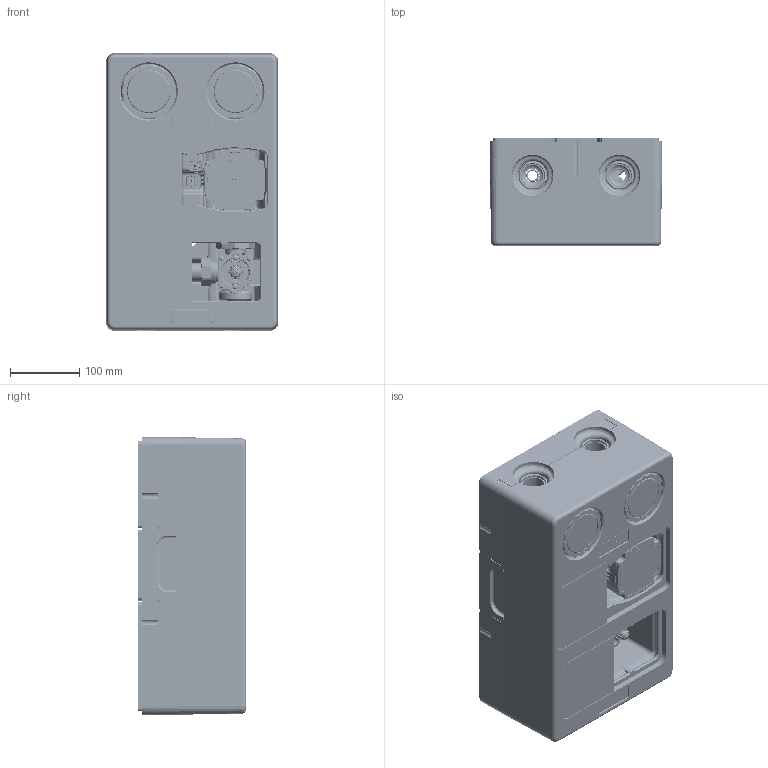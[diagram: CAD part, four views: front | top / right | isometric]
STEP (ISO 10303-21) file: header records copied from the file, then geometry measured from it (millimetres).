
FILE_DESCRIPTION (( 'STEP AP214' ), '1' );
FILE_NAME ('77839_0.STEP', '2022-02-01T09:46:56', ( '' ), ( '' ), 'SwSTEP 2.0', 'SolidWorks 2021', '' );
FILE_SCHEMA (( 'AUTOMOTIVE_DESIGN' ));
Length unit declared in the file: millimetre
Products named in the file (132): Lagerbuchse_05 01 000400; STEG_18; STEG_2; DECKGLAS_2; STEG_17; Ring-blau; Baugruppe Deckel mit Einlagen_Baugruppe; STEG_23; 801 024 2002_O-Ring _X_F824,0x2,0mm EPDM 70_X_B15 IRHD perox_2; 77813_PrimoTherm 180-2 K 25 3WM-SM; 0_0_0_5; STEG_11; 05 01 000470 (6)_Blende TH oben; Afriso Logo; 05 00 32 10_Pumpenkugelhahn VL vorm.; 05 01 000395_Lagerscheibe; OEM00143.1__3D_UPM3_HYBRID_SS.1.6; OEM00143.1__3D_UPM3_HYBRID_SS.1.4; 05 00 000274_Keilwelle Mischerbet_X_E4tigung; 0_0_0; ZYLINDER_0; 05 01 000470_Isol. PG DN25 8-teilig; 907380 0001_FKS-DIN7380_2-10.9-TX20-(A2K)-M4X12_0; 0_0_0_9; 907380 0001_FKS-DIN7380_2-10.9-TX20-(A2K)-M4X12_0_3; 0_0_0_8; 801 000 0202_O-Ring _X_F88,73x1,78mm EPDM 70_X_B15 I; 05 00 410222_Handrad f_X_FCr Thermometer; 760 000 0163_Flachdichtung _X_F830x23x2 F 391; ZEIGER; 05 00 410112_Pumpenkugelhahn G1iGxFl. m. SKB; 907380 0001_FKS-DIN7380_2-10.9-TX20-(A2K)-M4X12_0_2; OEM00143.1__3D_UPM3_HYBRID_SS.1.5; STEG_9; ZEIGER_2; STEG_12; 05 01 000393_Drehschieber DN25; STEG_26; 05 01 000608_Lagerdeckel KSV 12 bedr.; Bedruckung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
Assembly tree (131 placements, depth 9):
  77839_0
    77813_PrimoTherm 180-2 K 25 3WM-SM
      05 01 02 00 _PG DN25 gem.vorm.
        05 00 32 10_Pumpenkugelhahn VL vorm.
          05 00 410111_05 00 410111
            Einschraubk_X_F6rper_05 00 410483
          HANDRAD_05 00 410222
            HANDRAD_05 00 410222
            STEGE
            0_0_0
              0_0_0_2
                STEG
                STEG_2
                STEG_3
                0_0_0_3
                  STEG_4
                  STEG_5
              0_0_0_4
                STEG_6
                STEG_7
                STEG_8
                STEG_9
              0_0_0_5
                STEG_10
                STEG_11
                STEG_12
                STEG_13
            Tauchh_X_FClse_05 00 410223
            ZAHNSCHEIBE_906797 8400
        05 01 02 02_R_X_FCcklaufstrang DN25 gem. vormontiert
          05 00 410112_Pumpenkugelhahn G1iGxFl. m. SKB
            Einschraubk_X_F6rper_05 00 410483_2
            Kugeldichtung DN20 PTFE_760 000 0109_18__3
            KUGEL SKB Lu_2
              O-RING_801 000 0204
          05 00 410222_Handrad f_X_FCr Thermometer
            05 00 410222_Handrad f_X_FCr Thermometer
            STEGE_2
            0_0_0_6
              0_0_0_7
                STEG_14
                STEG_15
                STEG_16
                0_0_0_8
                  STEG_17
                  STEG_18
              0_0_0_9
                STEG_19
                STEG_20
                STEG_21
                STEG_22
              0_0_0_10
                STEG_23
                STEG_24
                STEG_25
                STEG_26
            05 00 410223_Tauchh_X_FClse
            906797 8400_Zahnscheibe J8,4-A2
            05 00 410240_Mitnahme-Blech
              BLECHLASCHE_2
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Bounding box: 248.01 x 154.96 x 400.08 mm (x, y, z)
Volume: 9545041.3 mm3; surface area: 1313777.4 mm2
Topology: 200 solids, 209 shells, 13689 faces, 35734 edges, 22550 vertices
Faces by surface type: plane 5689, cylinder 3764, bspline 3354, cone 863, torus 19
Entity records: 777790 total; most frequent: CARTESIAN_POINT 330164, ORIENTED_EDGE 70970, DIRECTION 52820, EDGE_CURVE 35519, VERTEX_POINT 22553, AXIS2_PLACEMENT_3D 17678, VECTOR 17464, LINE 17464
